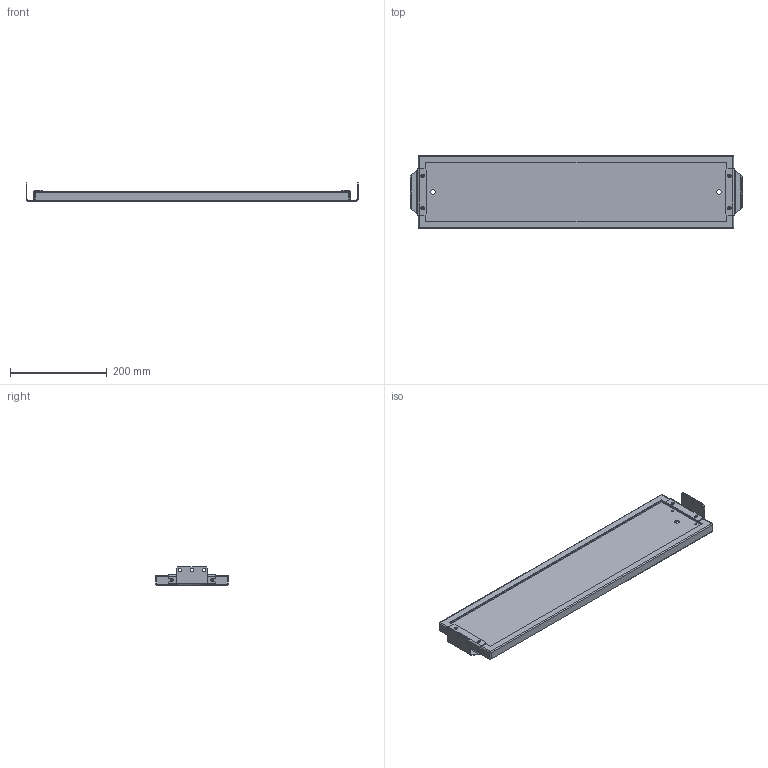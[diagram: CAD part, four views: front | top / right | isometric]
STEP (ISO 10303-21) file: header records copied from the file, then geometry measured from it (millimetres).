
FILE_DESCRIPTION (( 'STEP AP203' ), '1' );
FILE_NAME ('MP 65.15 M Ïàíåëü ìîíòàæíàÿ ñåêöèîííàÿ.STEP', '2013-01-09T13:30:36', ( 'System' ), ( '' ), 'SwSTEP 2.0', 'SolidWorks 2012', '' );
FILE_SCHEMA (( 'CONFIG_CONTROL_DESIGN' ));
Length unit declared in the file: millimetre
Products named in the file (1): MP 65.15 M Ïàíåëü ìîíòàæíàÿ ñåêöèîííàÿ
Bounding box: 685 x 150 x 37.75 mm (x, y, z)
Volume: 315279.8 mm3; surface area: 320547.9 mm2
Topology: 3 solids, 3 shells, 188 faces, 476 edges, 288 vertices
Faces by surface type: plane 92, cylinder 80, bspline 8, sphere 8
Entity records: 5961 total; most frequent: CARTESIAN_POINT 1305, DIRECTION 942, ORIENTED_EDGE 936, EDGE_CURVE 468, AXIS2_PLACEMENT_3D 325, LINE 292, VECTOR 292, VERTEX_POINT 288
